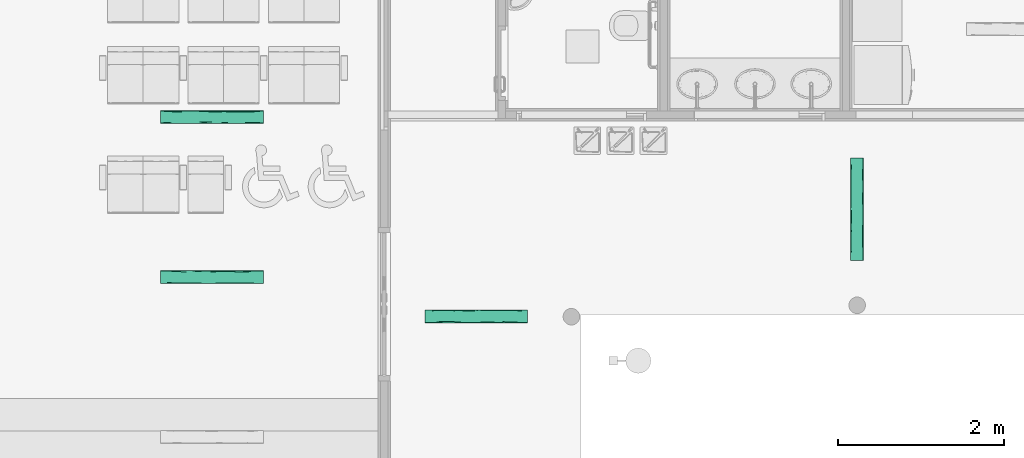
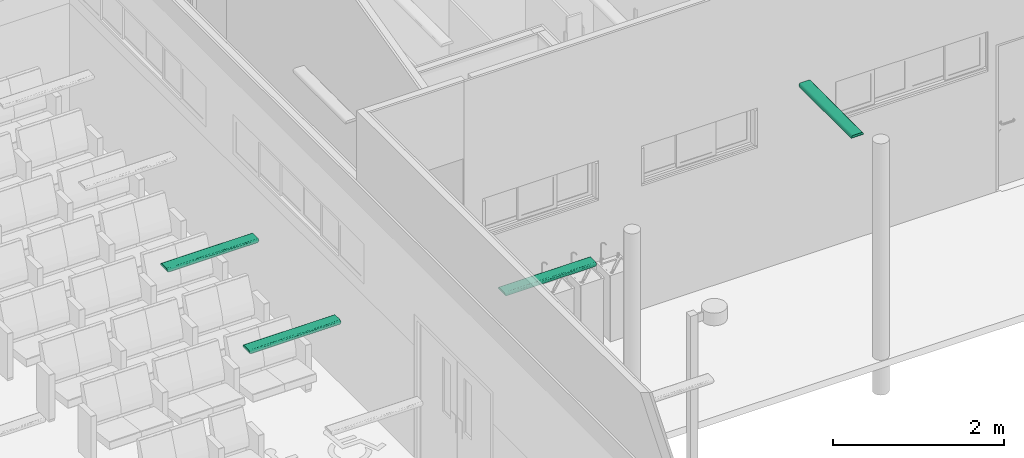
# One storey, part 59 of 155: 4 flow terminals.
"""IFC2X3 building model written with IfcOpenShell, lengths in metres."""

from ifc_helpers import new_model, entity, si_unit, converted_unit, derived_unit, direction, frame, origin, place, context, subcontext, project, spatial, faceted_brep, source, transform, mapped, material, material_list, type_object, type_shapes, element, save


model = new_model("IFC2X3")

# Units and contexts
model_context = context("Model", 3, precision=1e-05, world=origin(), true_north=direction((6.12303176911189e-17, 1.0)))
body_context = subcontext(model_context, "Body", "Model", "MODEL_VIEW")
ifc_project = project(units=[si_unit("LENGTHUNIT", "METRE"), si_unit("AREAUNIT", "SQUARE_METRE"), si_unit("VOLUMEUNIT", "CUBIC_METRE"), converted_unit("PLANEANGLEUNIT", "DEGREE", entity("IfcRatioMeasure", 0.0174532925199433), si_unit("PLANEANGLEUNIT", "RADIAN"), dimensions=[0, 0, 0, 0, 0, 0, 0]), si_unit("MASSUNIT", "GRAM", prefix="KILO"), derived_unit("MASSDENSITYUNIT", [(si_unit("MASSUNIT", "GRAM", prefix="KILO"), 1), (si_unit("LENGTHUNIT", "METRE"), -3)]), si_unit("TIMEUNIT", "SECOND"), si_unit("FREQUENCYUNIT", "HERTZ"), si_unit("THERMODYNAMICTEMPERATUREUNIT", "DEGREE_CELSIUS"), derived_unit("THERMALTRANSMITTANCEUNIT", [(si_unit("MASSUNIT", "GRAM", prefix="KILO"), 1), (si_unit("THERMODYNAMICTEMPERATUREUNIT", "KELVIN"), -1), (si_unit("TIMEUNIT", "SECOND"), -3)]), derived_unit("VOLUMETRICFLOWRATEUNIT", [(si_unit("LENGTHUNIT", "METRE"), 3), (si_unit("TIMEUNIT", "SECOND"), -1)]), si_unit("ELECTRICCURRENTUNIT", "AMPERE"), si_unit("ELECTRICVOLTAGEUNIT", "VOLT"), si_unit("POWERUNIT", "WATT"), si_unit("FORCEUNIT", "NEWTON", prefix="KILO"), si_unit("ILLUMINANCEUNIT", "LUX"), si_unit("LUMINOUSFLUXUNIT", "LUMEN"), si_unit("LUMINOUSINTENSITYUNIT", "CANDELA"), derived_unit("USERDEFINED", [(si_unit("MASSUNIT", "GRAM", prefix="KILO"), -1), (si_unit("LENGTHUNIT", "METRE"), -2), (si_unit("TIMEUNIT", "SECOND"), 3), (si_unit("LUMINOUSFLUXUNIT", "LUMEN"), 1)]), derived_unit("LINEARVELOCITYUNIT", [(si_unit("LENGTHUNIT", "METRE"), 1), (si_unit("TIMEUNIT", "SECOND"), -1)]), si_unit("PRESSUREUNIT", "PASCAL"), derived_unit("USERDEFINED", [(si_unit("LENGTHUNIT", "METRE"), -2), (si_unit("MASSUNIT", "GRAM", prefix="KILO"), 1), (si_unit("TIMEUNIT", "SECOND"), -2)])], contexts=[model_context])

# Site, building, storey, space
site_placement = place(None, frame((26.9889013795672, -17.5624287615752, 0.0)))
site = spatial("IfcSite", under=ifc_project, at=site_placement, Name="Default", CompositionType="ELEMENT")
building_placement = place(site_placement, origin())
building = spatial("IfcBuilding", under=site, at=building_placement, Name="C. C. L. Monsenhor Antônio Sampaio", CompositionType="ELEMENT")
storey_placement = place(building_placement, frame((0.0, 0.0, 1.19999999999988)))
storey = spatial("IfcBuildingStorey", under=building, at=storey_placement, Name="Nível 1.2", CompositionType="ELEMENT", Elevation=1.19999999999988)
space_1_placement = place(storey_placement, origin())
space_1 = spatial("IfcSpace", under=storey, at=space_1_placement, Name="94", CompositionType="ELEMENT", InteriorOrExteriorSpace="INTERNAL")

# Flow terminals
ifc_material_1 = material(Name="glass - blue - t85")
ifc_material_2 = material(Name="metal - aluminium")
ifc_material_list_1 = material_list([ifc_material_1, ifc_material_2])
ifc_material_list_2 = material_list([ifc_material_1, ifc_material_2])
light_fixture_type = type_object("IfcLightFixtureType", Name="BCS460 W16L124 1xLED24/840 MLO-PC", PredefinedType="NOTDEFINED", material=ifc_material_list_2)
shared_shape = source(origin(), body_context, "Body", "Brep", [
    faceted_brep([(0.585000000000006, 0.0435000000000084, -0.0460000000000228), (0.585000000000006, -0.0434999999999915, -0.0460000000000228), (0.585000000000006, -0.0434999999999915, -0.0490000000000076), (0.585000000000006, 0.0435000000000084, -0.0490000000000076), (-0.584999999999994, 0.0435000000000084, -0.0460000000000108), (-0.584999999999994, 0.0435000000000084, -0.0489999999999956), (-0.584999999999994, -0.0434999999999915, -0.0489999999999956), (-0.584999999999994, -0.0434999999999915, -0.0460000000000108)], [[[0, 1, 2, 3]], [[4, 5, 6, 7]], [[3, 5, 4, 0]], [[2, 6, 5, 3]], [[1, 7, 6, 2]], [[0, 4, 7, 1]]]),
    faceted_brep([(-0.584999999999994, -0.0434999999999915, -0.0489999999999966), (0.585000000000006, -0.0434999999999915, -0.0490000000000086), (0.585000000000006, -0.0554999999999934, -0.0490000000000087), (0.417543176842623, -0.0554999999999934, -0.0490000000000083), (0.334912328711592, -0.0554999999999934, -0.0490000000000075), (0.209867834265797, -0.0554999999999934, -0.0490000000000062), (0.0848246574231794, -0.0554999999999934, -0.0490000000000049), (-0.0826321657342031, -0.0554999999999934, -0.0490000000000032), (-0.250087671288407, -0.0554999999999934, -0.0490000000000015), (-0.417543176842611, -0.0554999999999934, -0.0489999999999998), (-0.584999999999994, -0.0554999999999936, -0.0489999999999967), (-0.584999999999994, 0.0435000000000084, -0.0489999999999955), (-0.584999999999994, 0.0555000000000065, -0.0489999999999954), (-0.417543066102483, 0.0555000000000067, -0.0489999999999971), (-0.334913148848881, 0.0555000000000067, -0.048999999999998), (-0.209868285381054, 0.0555000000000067, -0.0489999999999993), (-0.0848248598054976, 0.0555000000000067, -0.0490000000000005), (0.0826306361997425, 0.0555000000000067, -0.0490000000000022), (0.250087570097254, 0.0555000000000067, -0.049000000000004), (0.417544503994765, 0.0555000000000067, -0.0490000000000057), (0.585000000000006, 0.0555000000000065, -0.0490000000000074), (0.585000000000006, 0.0435000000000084, -0.0490000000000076), (0.585000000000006, -0.0434999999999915, -0.0190000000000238), (0.585000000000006, 0.0435000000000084, -0.0190000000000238), (0.585000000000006, 0.0614528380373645, -0.0482162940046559), (0.585000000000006, 0.0670000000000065, -0.0459185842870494), (0.585000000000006, 0.0717634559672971, -0.0422634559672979), (0.585000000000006, 0.0754185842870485, -0.0375000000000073), (0.585000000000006, 0.077716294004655, -0.0319528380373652), (0.585000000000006, 0.0785000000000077, -0.0260000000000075), (0.585000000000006, 0.0785000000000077, 0.0), (0.585000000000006, -0.0784999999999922, 0.0), (0.585000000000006, -0.0784999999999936, -0.02600000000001), (0.585000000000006, -0.0777162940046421, -0.031952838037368), (0.585000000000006, -0.0754185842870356, -0.03750000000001), (0.585000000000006, -0.0717634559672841, -0.0422634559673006), (0.585000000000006, -0.0669999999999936, -0.0459185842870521), (0.585000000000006, -0.0614528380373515, -0.0482162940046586), (-0.584999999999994, 0.0435000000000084, -0.0190000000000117), (-0.584999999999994, -0.0434999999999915, -0.0190000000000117), (-0.584999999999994, -0.0614528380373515, -0.0482162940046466), (-0.584999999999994, -0.0669999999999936, -0.0459185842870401), (-0.584999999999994, -0.0717634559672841, -0.0422634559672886), (-0.584999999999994, -0.0754185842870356, -0.037499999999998), (-0.584999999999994, -0.0777162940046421, -0.031952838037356), (-0.584999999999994, -0.0784999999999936, -0.025999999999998), (-0.584999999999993, -0.0784999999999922, 0.0), (-0.584999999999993, 0.0785000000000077, 0.0), (-0.584999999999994, 0.0785000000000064, -0.0259999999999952), (-0.584999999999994, 0.077716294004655, -0.0319528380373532), (-0.584999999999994, 0.0754185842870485, -0.0374999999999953), (-0.584999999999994, 0.0717634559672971, -0.0422634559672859), (-0.584999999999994, 0.0670000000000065, -0.0459185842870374), (-0.584999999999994, 0.0614528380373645, -0.0482162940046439), (0.417543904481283, 0.0785000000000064, -0.0260000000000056), (0.334912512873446, 0.0785000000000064, -0.0260000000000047), (0.209868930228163, 0.0785000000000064, -0.0260000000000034), (0.0848250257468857, 0.0785000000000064, -0.0260000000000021), (-0.0826310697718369, 0.0785000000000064, -0.0260000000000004), (-0.250087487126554, 0.0785000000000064, -0.0259999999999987), (-0.417543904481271, 0.0785000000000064, -0.025999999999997), (-0.430283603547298, 0.073747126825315, -0.0400015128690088), (-0.39346878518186, 0.069501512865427, -0.0442471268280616), (-0.441987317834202, 0.0643017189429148, -0.0472492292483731), (-0.435801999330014, 0.0759760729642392, -0.0364752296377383), (0.43028360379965, 0.0695015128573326, -0.0442471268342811), (0.393468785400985, 0.0737471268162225, -0.0400015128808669), (-0.166359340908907, 0.0777768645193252, -0.0317220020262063), (-0.333815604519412, 0.078144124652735, -0.0300303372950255), (0.441987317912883, 0.0767492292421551, -0.0348017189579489), (0.376228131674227, 0.0780233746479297, -0.0306580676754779), (-0.0103058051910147, 0.0779837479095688, -0.0308457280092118), (0.147346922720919, 0.0778835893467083, -0.0312891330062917), (0.0846877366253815, 0.0752228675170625, -0.0378325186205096), (0.113930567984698, 0.0669406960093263, -0.0459527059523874), (0.259392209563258, 0.0628104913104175, -0.0478072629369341), (0.138751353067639, 0.0626656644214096, -0.0478552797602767), (-0.327642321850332, 0.0767492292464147, -0.0348017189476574), (-0.44845841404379, 0.0775260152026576, -0.0326222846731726), (0.274715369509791, 0.0767492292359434, -0.0348017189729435), (0.37104983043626, 0.0643017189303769, -0.0472492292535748), (0.333815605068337, 0.0596187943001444, -0.0486282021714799), (0.0893720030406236, 0.0707479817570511, -0.0432191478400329), (-0.0153938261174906, 0.0683034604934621, -0.0451068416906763), (-0.376228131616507, 0.0601580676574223, -0.0485233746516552), (0.0434325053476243, 0.059742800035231, -0.048605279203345), (0.218757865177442, 0.0695015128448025, -0.0442471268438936), (0.464656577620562, 0.0597129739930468, -0.0486108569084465), (0.199843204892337, 0.0732493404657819, -0.0406274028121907), (-0.274715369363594, 0.0643017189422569, -0.0472492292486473), (-0.115235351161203, 0.073747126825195, -0.0400015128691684), (-0.150791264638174, 0.070206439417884, -0.0436839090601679), (-0.272759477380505, 0.0724713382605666, -0.0415233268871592), (-0.00814072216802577, 0.0636892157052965, -0.0474927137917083), (-0.14734692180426, 0.0607891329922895, -0.0483835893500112), (-0.269938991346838, 0.0692956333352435, -0.0444032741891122), (-0.201904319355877, 0.0758204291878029, -0.0367740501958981), (-0.0663340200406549, 0.0763921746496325, -0.0356185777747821), (-0.139314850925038, 0.066006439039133, -0.046460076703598), (-0.430283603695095, -0.0695015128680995, -0.0442471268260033), (-0.393468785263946, -0.073747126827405, -0.0400015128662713), (-0.44198731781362, -0.0767492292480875, -0.0348017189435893), (-0.435801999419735, -0.06597522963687, -0.0464760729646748), (0.430283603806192, -0.0737471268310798, -0.0400015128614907), (0.393468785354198, -0.0695015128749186, -0.0442471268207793), (-0.166359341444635, -0.061222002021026, -0.0482768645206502), (-0.333815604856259, -0.0595303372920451, -0.0486441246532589), (0.441987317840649, -0.0643017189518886, -0.0472492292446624), (0.37622813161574, -0.0601580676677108, -0.0485233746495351), (-0.0103058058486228, -0.0603457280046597, -0.0484837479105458), (0.147346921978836, -0.0607891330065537, -0.0483835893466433), (0.0846877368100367, -0.0673325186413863, -0.0457228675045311), (0.113930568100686, -0.0754527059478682, -0.0374406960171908), (0.259392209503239, -0.0773072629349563, -0.0333104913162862), (0.138751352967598, -0.0773552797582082, -0.0331656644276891), (-0.327642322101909, -0.0643017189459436, -0.047249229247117), (-0.448458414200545, -0.062122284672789, -0.048026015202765), (-0.417543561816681, -0.0784999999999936, -0.0259999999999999), (0.274715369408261, -0.0643017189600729, -0.0472492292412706), (0.371049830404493, -0.0767492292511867, -0.0348017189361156), (0.333815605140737, -0.0781282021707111, -0.0301187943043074), (0.250087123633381, -0.0784999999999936, -0.0260000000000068), (0.0893720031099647, -0.0727191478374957, -0.041247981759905), (-0.0153938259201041, -0.074606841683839, -0.0388034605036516), (-0.376228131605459, -0.0780233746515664, -0.0306580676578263), (0.0826306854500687, -0.0784999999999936, -0.026000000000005), (-0.0848257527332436, -0.0784999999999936, -0.0260000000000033), (0.0434325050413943, -0.0781052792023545, -0.030242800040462), (0.417543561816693, -0.0784999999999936, -0.0260000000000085), (0.21875786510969, -0.0737471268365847, -0.0400015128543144), (0.464656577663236, -0.0781108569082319, -0.0302129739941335), (0.19984320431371, -0.0701274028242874, -0.0437493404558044), (-0.274715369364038, -0.0767492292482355, -0.0348017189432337), (-0.115235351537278, -0.0695015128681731, -0.0442471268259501), (-0.150791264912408, -0.0731839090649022, -0.0407064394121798), (-0.209869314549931, -0.0784999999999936, -0.026000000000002), (-0.334912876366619, -0.0784999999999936, -0.0260000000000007), (-0.272759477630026, -0.071023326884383, -0.0429713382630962), (-0.00814072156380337, -0.0769927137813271, -0.0341892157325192), (-0.147346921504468, -0.0778835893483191, -0.03128913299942), (-0.269938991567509, -0.0739032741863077, -0.0397956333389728), (-0.201904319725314, -0.0662740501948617, -0.0463204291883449), (-0.0663340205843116, -0.0651185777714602, -0.0468921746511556), (-0.139314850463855, -0.0759600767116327, -0.0365064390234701)], [[[0, 1, 2, 3, 4, 5, 6, 7, 8, 9, 10]], [[11, 12, 13, 14, 15, 16, 17, 18, 19, 20, 21]], [[22, 23, 21, 20, 24, 25, 26, 27, 28, 29, 30, 31, 32, 33, 34, 35, 36, 37, 2, 1]], [[12, 11, 38, 39, 0, 10, 40, 41, 42, 43, 44, 45, 46, 47, 48, 49, 50, 51, 52, 53]], [[47, 30, 29, 54, 55, 56, 57, 58, 59, 60, 48]], [[61, 51, 50]], [[62, 51, 61]], [[51, 62, 52]], [[62, 63, 52]], [[63, 53, 52]], [[61, 50, 64]], [[26, 65, 66]], [[26, 25, 65]], [[54, 29, 28]], [[67, 68, 59]], [[69, 70, 28]], [[71, 72, 73]], [[74, 75, 76]], [[26, 66, 27]], [[77, 78, 68]], [[13, 12, 53]], [[69, 27, 66]], [[79, 73, 72]], [[24, 80, 25]], [[70, 79, 72]], [[69, 28, 27]], [[75, 81, 18]], [[82, 74, 83]], [[63, 84, 53]], [[17, 16, 85]], [[19, 18, 81]], [[75, 74, 86]], [[87, 81, 80]], [[73, 79, 88]], [[70, 56, 55, 54]], [[80, 86, 65]], [[89, 63, 62]], [[90, 83, 91]], [[84, 15, 14, 13]], [[61, 77, 92]], [[59, 68, 60]], [[78, 49, 48]], [[20, 87, 24]], [[93, 76, 85]], [[66, 65, 86]], [[65, 25, 80]], [[62, 61, 92]], [[77, 64, 78]], [[92, 90, 91]], [[89, 94, 84]], [[28, 70, 54]], [[79, 69, 66]], [[53, 84, 13]], [[91, 95, 92]], [[96, 90, 92]], [[56, 72, 57]], [[70, 69, 79]], [[70, 72, 56]], [[67, 59, 58]], [[71, 67, 58]], [[71, 58, 57]], [[83, 90, 82]], [[88, 82, 73]], [[96, 97, 90]], [[71, 73, 97]], [[15, 94, 16]], [[84, 63, 89]], [[84, 94, 15]], [[98, 83, 93]], [[83, 98, 91]], [[18, 17, 76]], [[62, 92, 95]], [[98, 95, 91]], [[98, 94, 89]], [[74, 76, 93]], [[93, 94, 98]], [[85, 16, 94]], [[19, 81, 87]], [[80, 81, 75]], [[19, 87, 20]], [[24, 87, 80]], [[78, 48, 60]], [[77, 68, 67]], [[68, 78, 60]], [[49, 78, 50]], [[78, 64, 50]], [[64, 77, 61]], [[94, 93, 85]], [[85, 76, 17]], [[97, 67, 71]], [[72, 71, 57]], [[77, 67, 96]], [[90, 97, 73]], [[97, 96, 67]], [[77, 96, 92]], [[80, 75, 86]], [[76, 75, 18]], [[95, 89, 62]], [[89, 95, 98]], [[86, 74, 82]], [[83, 74, 93]], [[86, 82, 88]], [[73, 82, 90]], [[88, 66, 86]], [[66, 88, 79]], [[99, 42, 41]], [[100, 42, 99]], [[42, 100, 43]], [[100, 101, 43]], [[101, 44, 43]], [[99, 41, 102]], [[35, 103, 104]], [[35, 34, 103]], [[3, 2, 37]], [[105, 106, 8]], [[107, 108, 37]], [[109, 110, 111]], [[112, 113, 114]], [[35, 104, 36]], [[115, 116, 106]], [[117, 45, 44]], [[107, 36, 104]], [[118, 111, 110]], [[33, 119, 34]], [[108, 118, 110]], [[107, 37, 36]], [[113, 120, 121]], [[122, 112, 123]], [[101, 124, 44]], [[125, 126, 127]], [[128, 121, 120]], [[113, 112, 129]], [[130, 120, 119]], [[111, 118, 131]], [[108, 5, 4, 3]], [[119, 129, 103]], [[132, 101, 100]], [[133, 123, 134]], [[124, 135, 136, 117]], [[99, 115, 137]], [[8, 106, 9]], [[116, 40, 10]], [[32, 130, 33]], [[138, 114, 127]], [[104, 103, 129]], [[103, 34, 119]], [[100, 99, 137]], [[115, 102, 116]], [[137, 133, 134]], [[132, 139, 124]], [[37, 108, 3]], [[118, 107, 104]], [[44, 124, 117]], [[134, 140, 137]], [[141, 133, 137]], [[5, 110, 6]], [[108, 107, 118]], [[108, 110, 5]], [[105, 8, 7]], [[109, 105, 7]], [[109, 7, 6]], [[123, 133, 122]], [[131, 122, 111]], [[141, 142, 133]], [[109, 111, 142]], [[135, 139, 126]], [[124, 101, 132]], [[124, 139, 135]], [[143, 123, 138]], [[123, 143, 134]], [[121, 125, 114]], [[100, 137, 140]], [[143, 140, 134]], [[143, 139, 132]], [[112, 114, 138]], [[138, 139, 143]], [[127, 126, 139]], [[128, 120, 130]], [[119, 120, 113]], [[128, 130, 32]], [[33, 130, 119]], [[116, 10, 9]], [[115, 106, 105]], [[106, 116, 9]], [[40, 116, 41]], [[116, 102, 41]], [[102, 115, 99]], [[139, 138, 127]], [[127, 114, 125]], [[142, 105, 109]], [[110, 109, 6]], [[115, 105, 141]], [[133, 142, 111]], [[142, 141, 105]], [[115, 141, 137]], [[119, 113, 129]], [[114, 113, 121]], [[140, 132, 100]], [[132, 140, 143]], [[129, 112, 122]], [[123, 112, 138]], [[129, 122, 131]], [[111, 122, 133]], [[131, 104, 129]], [[104, 131, 118]], [[31, 46, 45, 117, 136, 135, 126, 125, 121, 128, 32]], [[46, 31, 30, 47]], [[21, 23, 38, 11]], [[22, 1, 0, 39]], [[23, 22, 39, 38]]]),
    faceted_brep([(0.597000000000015, 0.0785000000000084, 0.0), (0.602952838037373, 0.0785000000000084, -0.000783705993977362), (0.608500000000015, 0.0785000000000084, -0.00308141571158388), (0.613263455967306, 0.0785000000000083, -0.00673654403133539), (0.616918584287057, 0.0785000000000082, -0.011499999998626), (0.619216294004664, 0.0785000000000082, -0.017047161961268), (0.620000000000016, 0.0785000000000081, -0.0229999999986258), (0.620000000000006, 0.0785000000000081, -0.0259999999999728), (0.585000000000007, 0.0785000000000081, -0.0259999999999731), (0.585000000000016, 0.0785000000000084, 0.0), (0.619216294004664, -0.0784999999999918, -0.0170471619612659), (0.616918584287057, -0.0784999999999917, -0.0114999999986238), (0.613263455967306, -0.0784999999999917, -0.00673654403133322), (0.608500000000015, -0.0784999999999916, -0.00308141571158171), (0.602952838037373, -0.0784999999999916, -0.000783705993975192), (0.597000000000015, -0.0784999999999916, 0.0), (0.585000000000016, -0.0784999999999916, 0.0), (0.585000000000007, -0.0784999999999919, -0.0260000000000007), (0.620000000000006, -0.0784999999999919, -0.0260000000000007), (0.620000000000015, -0.0784999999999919, -0.0229999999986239), (0.620000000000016, 0.0669999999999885, -0.0459185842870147), (0.620000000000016, 0.0717634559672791, -0.0422634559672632), (0.620000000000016, 0.0754185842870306, -0.0374999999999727), (0.620000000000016, 0.0777162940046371, -0.0319528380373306), (0.620000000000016, -0.0777162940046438, -0.0319528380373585), (0.620000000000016, -0.0754185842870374, -0.0375000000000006), (0.620000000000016, -0.071763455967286, -0.0422634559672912), (0.620000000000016, -0.0669999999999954, -0.0459185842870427), (0.620000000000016, -0.0614528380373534, -0.0482162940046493), (0.620000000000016, -0.0554999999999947, -0.0489999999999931), (0.620000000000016, 0.0554999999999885, -0.0489999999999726), (0.620000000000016, 0.0614528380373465, -0.0482162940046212), (0.585000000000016, 0.0554999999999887, -0.048999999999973), (0.585000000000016, -0.0554999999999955, -0.0490000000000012), (0.585000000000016, -0.0614528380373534, -0.0482162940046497), (0.585000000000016, -0.0669999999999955, -0.0459185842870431), (0.585000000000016, -0.071763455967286, -0.0422634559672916), (0.585000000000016, -0.0754185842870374, -0.0375000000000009), (0.585000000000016, -0.0777162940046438, -0.0319528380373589), (0.585000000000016, 0.0777162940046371, -0.031952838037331), (0.585000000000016, 0.0754185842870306, -0.037499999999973), (0.585000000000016, 0.0717634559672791, -0.0422634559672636), (0.585000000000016, 0.0669999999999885, -0.0459185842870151), (0.585000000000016, 0.0614528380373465, -0.0482162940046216)], [[[0, 1, 2, 3, 4, 5, 6, 7, 8, 9]], [[10, 11, 12, 13, 14, 15, 16, 17, 18, 19]], [[20, 21, 22, 23, 7, 6, 19, 18, 24, 25, 26, 27, 28, 29, 30, 31]], [[32, 33, 34, 35, 36, 37, 38, 17, 16, 9, 8, 39, 40, 41, 42, 43]], [[16, 15, 0, 9]], [[11, 10, 5, 4]], [[12, 11, 4, 3]], [[6, 5, 10, 19]], [[14, 13, 2, 1]], [[15, 14, 1, 0]], [[2, 13, 12, 3]], [[43, 31, 30, 32]], [[43, 42, 20, 31]], [[21, 20, 42, 41]], [[23, 22, 40, 39]], [[7, 23, 39, 8]], [[40, 22, 21, 41]], [[29, 33, 32, 30]], [[25, 24, 38, 37]], [[26, 25, 37, 36]], [[17, 38, 24, 18]], [[28, 27, 35, 34]], [[29, 28, 34, 33]], [[35, 27, 26, 36]]]),
    faceted_brep([(-0.608499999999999, 0.0785000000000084, -0.00308141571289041), (-0.602952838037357, 0.0785000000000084, -0.000783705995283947), (-0.597, 0.0785000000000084, 0.0), (-0.584999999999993, 0.0785000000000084, 0.0), (-0.584999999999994, 0.0785000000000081, -0.0260000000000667), (-0.619999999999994, 0.0785000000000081, -0.0260000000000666), (-0.619999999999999, 0.0785000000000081, -0.0229999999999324), (-0.619216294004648, 0.0785000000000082, -0.0170471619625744), (-0.616918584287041, 0.0785000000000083, -0.0114999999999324), (-0.61326345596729, 0.0785000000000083, -0.00673654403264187), (-0.584999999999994, -0.0784999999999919, -0.0260000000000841), (-0.584999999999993, -0.0784999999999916, 0.0), (-0.596999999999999, -0.0784999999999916, 0.0), (-0.602952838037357, -0.0784999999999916, -0.000783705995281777), (-0.608499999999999, -0.0784999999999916, -0.00308141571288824), (-0.61326345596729, -0.0784999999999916, -0.0067365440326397), (-0.616918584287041, -0.0784999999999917, -0.0114999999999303), (-0.619216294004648, -0.0784999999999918, -0.0170471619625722), (-0.619999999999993, -0.0784999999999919, -0.0229999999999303), (-0.619999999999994, -0.0784999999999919, -0.0260000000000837), (-0.619999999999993, 0.0777162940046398, -0.0319528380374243), (-0.619999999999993, 0.0754185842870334, -0.0375000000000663), (-0.619999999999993, 0.071763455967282, -0.042263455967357), (-0.619999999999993, 0.0669999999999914, -0.0459185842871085), (-0.619999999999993, 0.0614528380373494, -0.048216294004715), (-0.619999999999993, 0.0554999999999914, -0.0490000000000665), (-0.619999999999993, -0.0554999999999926, -0.0490000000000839), (-0.619999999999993, -0.0614528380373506, -0.0482162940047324), (-0.619999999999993, -0.0669999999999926, -0.0459185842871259), (-0.619999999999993, -0.0717634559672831, -0.0422634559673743), (-0.619999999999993, -0.0754185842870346, -0.0375000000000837), (-0.619999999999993, -0.0777162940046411, -0.0319528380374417), (-0.584999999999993, 0.0614528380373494, -0.0482162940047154), (-0.584999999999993, 0.0669999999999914, -0.0459185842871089), (-0.584999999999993, 0.071763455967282, -0.0422634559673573), (-0.584999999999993, 0.0754185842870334, -0.0375000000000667), (-0.584999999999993, 0.0777162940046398, -0.0319528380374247), (-0.584999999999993, -0.0777162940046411, -0.0319528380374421), (-0.584999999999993, -0.0754185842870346, -0.0375000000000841), (-0.584999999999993, -0.0717634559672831, -0.0422634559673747), (-0.584999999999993, -0.0669999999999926, -0.0459185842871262), (-0.584999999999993, -0.0614528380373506, -0.0482162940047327), (-0.584999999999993, -0.0554999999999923, -0.0490000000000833), (-0.584999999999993, 0.0554999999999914, -0.0490000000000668)], [[[0, 1, 2, 3, 4, 5, 6, 7, 8, 9]], [[10, 11, 12, 13, 14, 15, 16, 17, 18, 19]], [[5, 20, 21, 22, 23, 24, 25, 26, 27, 28, 29, 30, 31, 19, 18, 6]], [[32, 33, 34, 35, 36, 4, 3, 11, 10, 37, 38, 39, 40, 41, 42, 43]], [[12, 11, 3, 2]], [[14, 13, 1, 0]], [[15, 14, 0, 9]], [[2, 1, 13, 12]], [[17, 16, 8, 7]], [[18, 17, 7, 6]], [[8, 16, 15, 9]], [[22, 21, 35, 34]], [[36, 20, 5, 4]], [[21, 20, 36, 35]], [[24, 23, 33, 32]], [[25, 24, 32, 43]], [[33, 23, 22, 34]], [[26, 25, 43, 42]], [[28, 27, 41, 40]], [[29, 28, 40, 39]], [[42, 41, 27, 26]], [[31, 30, 38, 37]], [[19, 31, 37, 10]], [[38, 30, 29, 39]]]),
])
type_shapes(light_fixture_type, [shared_shape])
flow_terminal_1_placement = place(space_1_placement, frame((-7.99055229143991, -18.7830663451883, 2.8), z_axis=(0.0, 0.0, -1.0), x_axis=(-1.0, 0.0, 0.0)))
element("IfcFlowTerminal", 1, at=flow_terminal_1_placement, inside=space_1, type_object=light_fixture_type, material=ifc_material_list_1, Name="63_PHILIPS_smartform-LED-surface_f:BCS460 W16L124 1xLED24/840 MLO-PC", ObjectType="BCS460 W16L124 1xLED24/840 MLO-PC", context=body_context, shape_type="MappedRepresentation", body=[
    mapped(shared_shape, transform((0.0, 0.0, 0.0), scale=1.0)),
])
ifc_material_list_3 = material_list([ifc_material_1, ifc_material_2])
flow_terminal_2_placement = place(space_1_placement, frame((-7.9905522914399, -16.8550663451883, 2.8), z_axis=(0.0, 0.0, -1.0), x_axis=(-1.0, 0.0, 0.0)))
element("IfcFlowTerminal", 2, at=flow_terminal_2_placement, inside=space_1, type_object=light_fixture_type, material=ifc_material_list_3, Name="63_PHILIPS_smartform-LED-surface_f:BCS460 W16L124 1xLED24/840 MLO-PC", ObjectType="BCS460 W16L124 1xLED24/840 MLO-PC", context=body_context, shape_type="MappedRepresentation", body=[
    mapped(shared_shape, transform((0.0, 0.0, 0.0), scale=1.0)),
])

# Space
space_2_placement = place(storey_placement, origin())
space_2 = spatial("IfcSpace", under=storey, at=space_2_placement, Name="103", CompositionType="ELEMENT", InteriorOrExteriorSpace="INTERNAL")

# Flow terminal
ifc_material_list_4 = material_list([ifc_material_1, ifc_material_2])
flow_terminal_3_placement = place(space_2_placement, frame((-0.213864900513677, -17.9656095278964, 2.8), z_axis=(0.0, 0.0, -1.0), x_axis=(0.0, -1.0, 0.0)))
element("IfcFlowTerminal", 3, at=flow_terminal_3_placement, inside=space_2, type_object=light_fixture_type, material=ifc_material_list_4, Name="63_PHILIPS_smartform-LED-surface_f:BCS460 W16L124 1xLED24/840 MLO-PC", ObjectType="BCS460 W16L124 1xLED24/840 MLO-PC", context=body_context, shape_type="MappedRepresentation", body=[
    mapped(shared_shape, transform((0.0, 0.0, 0.0), scale=1.0)),
])

# Space
space_3_placement = place(storey_placement, origin())
space_3 = spatial("IfcSpace", under=storey, at=space_3_placement, Name="102", CompositionType="ELEMENT", InteriorOrExteriorSpace="INTERNAL")

# Flow terminal
ifc_material_list_5 = material_list([ifc_material_1, ifc_material_2])
flow_terminal_4_placement = place(space_3_placement, frame((-4.80436447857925, -19.2571559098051, 2.8), z_axis=(0.0, 0.0, -1.0), x_axis=(-1.0, 0.0, 0.0)))
element("IfcFlowTerminal", 4, at=flow_terminal_4_placement, inside=space_3, type_object=light_fixture_type, material=ifc_material_list_5, Name="63_PHILIPS_smartform-LED-surface_f:BCS460 W16L124 1xLED24/840 MLO-PC", ObjectType="BCS460 W16L124 1xLED24/840 MLO-PC", context=body_context, shape_type="MappedRepresentation", body=[
    mapped(shared_shape, transform((0.0, 0.0, 0.0), scale=1.0)),
])

save(model, "model.ifc")
